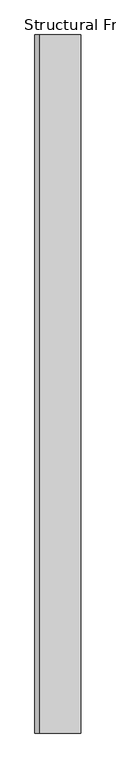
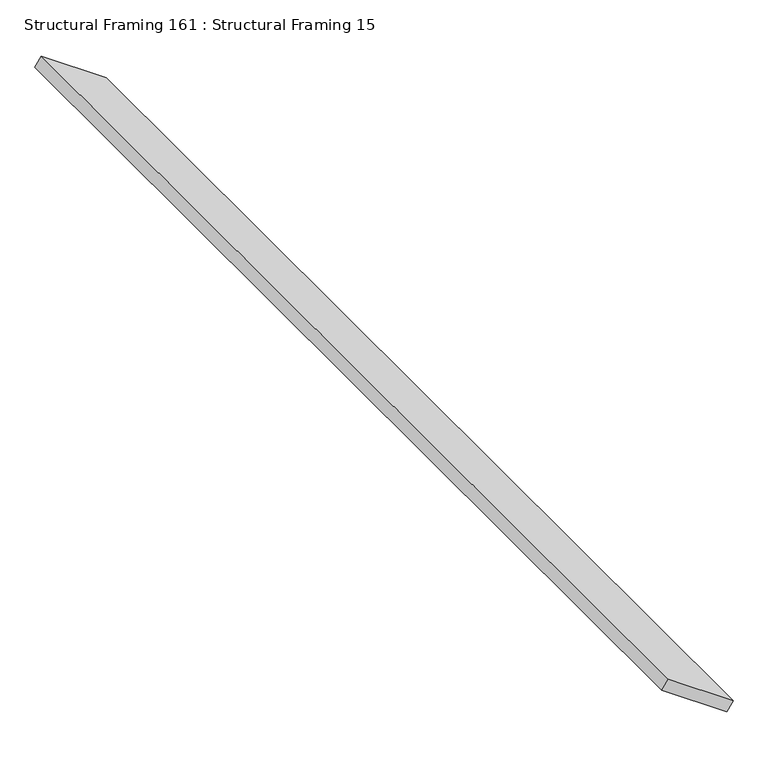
"""IFC4 building model written with IfcOpenShell, lengths in millimetres: beam geometry, Structural Framing 161 : Structural Framing 15."""

from ifc_helpers import new_model, si_unit, frame, origin, place, context, project, spatial, polyline, outline, extrude, source, transform, mapped, element, save


def structural_framing_161_structural_framing_15_e03e88da(model_context):
    return source(origin(), model_context, "Body", "SweptSolid", [
        extrude(outline(polyline([(0.0, -174.3446795), (0.0, 0.0), (2400.0, 0.0), (2400.0, -174.3446795), (0.0, -174.3446795)])), frame((1349.5937079, 3995.5508021, 2700.0), z_axis=(0.5735764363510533, 0.0, 0.8191520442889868), x_axis=(0.0, -1.0, 0.0)), (0.0, 0.0, 1.0), 25.0),
    ])


if __name__ == "__main__":
    model = new_model("IFC4")
    model_context = context("Model", 3, world=origin())
    ifc_project = project(units=[si_unit("LENGTHUNIT", "METRE", prefix="MILLI")], contexts=[model_context])
    site = spatial("IfcSite", under=ifc_project)
    building = spatial("IfcBuilding", under=site)
    placement = place(None, origin())
    structural_framing_161_structural_framing_15_shape = structural_framing_161_structural_framing_15_e03e88da(model_context)
    element("IfcBeam", 1, ObjectType="Structural Framing 161 : Structural Framing 15", at=placement, inside=building, context=model_context, shape_type="MappedRepresentation", body=[
        mapped(structural_framing_161_structural_framing_15_shape, transform((0.0, 0.0, 0.0), x_axis=(1.0, 0.0, 0.0), y_axis=(0.0, 1.0, 0.0), z_axis=(0.0, 0.0, 1.0))),
    ])
    save(model, "model.ifc")
